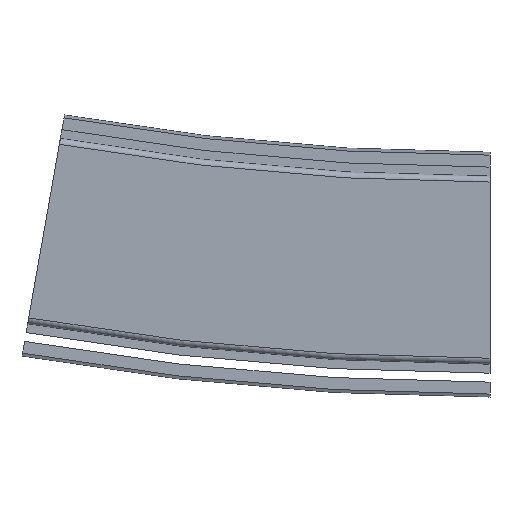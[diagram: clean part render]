
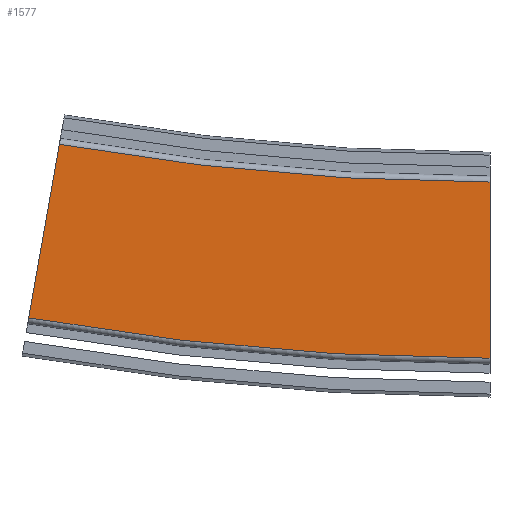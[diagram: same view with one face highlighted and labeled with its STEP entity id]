
A CAD part, left-side view. The second image highlights one B-rep face of the part: STEP entity #1577.
In plain terms, the highlighted planar face has unit normal (-1, 0, 0).
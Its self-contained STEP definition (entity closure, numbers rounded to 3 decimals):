
#126=PLANE('',#1712);
#200=FACE_OUTER_BOUND('',#292,.T.);
#292=EDGE_LOOP('',(#1300,#1301,#1302,#1303));
#360=CIRCLE('',#1711,830.5);
#361=CIRCLE('',#1713,889.5);
#464=LINE('',#7170,#590);
#465=LINE('',#7172,#591);
#590=VECTOR('',#2010,10.);
#591=VECTOR('',#2011,10.);
#750=VERTEX_POINT('',#7163);
#751=VERTEX_POINT('',#7165);
#752=VERTEX_POINT('',#7169);
#753=VERTEX_POINT('',#7171);
#950=EDGE_CURVE('',#750,#751,#360,.T.);
#951=EDGE_CURVE('',#752,#750,#464,.T.);
#952=EDGE_CURVE('',#753,#751,#465,.T.);
#953=EDGE_CURVE('',#752,#753,#361,.T.);
#1300=ORIENTED_EDGE('',*,*,#951,.T.);
#1301=ORIENTED_EDGE('',*,*,#950,.T.);
#1302=ORIENTED_EDGE('',*,*,#952,.F.);
#1303=ORIENTED_EDGE('',*,*,#953,.F.);
#1577=ADVANCED_FACE('',(#200),#126,.T.);
#1711=AXIS2_PLACEMENT_3D('',#7167,#2006,#2007);
#1712=AXIS2_PLACEMENT_3D('',#7168,#2008,#2009);
#1713=AXIS2_PLACEMENT_3D('',#7173,#2012,#2013);
#2006=DIRECTION('center_axis',(1.,0.,0.));
#2007=DIRECTION('ref_axis',(0.,0.,-1.));
#2008=DIRECTION('center_axis',(-1.,0.,0.));
#2009=DIRECTION('ref_axis',(0.,0.,1.));
#2010=DIRECTION('',(0.,0.,1.));
#2011=DIRECTION('',(0.,-0.174,0.985));
#2012=DIRECTION('center_axis',(1.,0.,0.));
#2013=DIRECTION('ref_axis',(0.,0.,-1.));
#7163=CARTESIAN_POINT('',(-43.,0.,29.5));
#7165=CARTESIAN_POINT('',(-43.,144.215,42.117));
#7167=CARTESIAN_POINT('Origin',(-43.,0.,860.));
#7168=CARTESIAN_POINT('Origin',(-43.,0.,-29.5));
#7169=CARTESIAN_POINT('',(-43.,0.,-29.5));
#7170=CARTESIAN_POINT('',(-43.,0.,-29.5));
#7171=CARTESIAN_POINT('',(-43.,154.46,-15.986));
#7172=CARTESIAN_POINT('',(-43.,154.46,-15.986));
#7173=CARTESIAN_POINT('Origin',(-43.,0.,860.));
